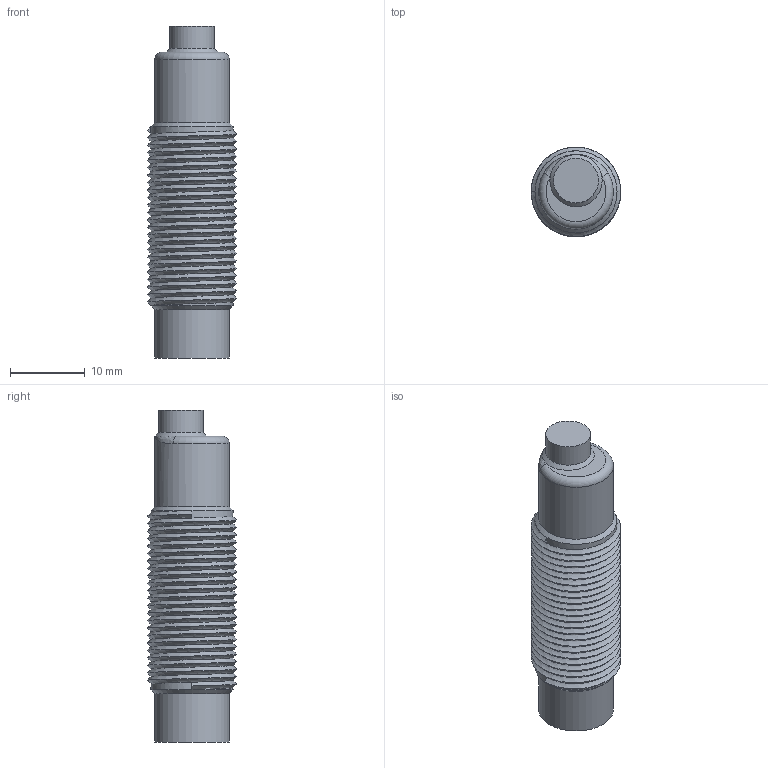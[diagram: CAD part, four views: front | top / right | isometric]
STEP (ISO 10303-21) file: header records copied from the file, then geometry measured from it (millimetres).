
FILE_DESCRIPTION(/* description */ ('Alibre Inc.'),/* implementation_level */ '2;1');
FILE_NAME(/* name */ 'export0',/* time_stamp */ '2013-08-15T11:09:37-06:00',/* author */ (''),/* organization */ (''),/* preprocessor_version */ 'ST-DEVELOPER v14',/* originating_system */ 'Alibre',/* authorisation */ '');
FILE_SCHEMA (('ALIBRE_SCHEMA','CONFIG_CONTROL_DESIGN'));
Length unit declared in the file: centimetre
Products named in the file (1): ID_1
Bounding box: 11.99 x 11.99 x 44.5 mm (x, y, z)
Volume: 3922 mm3; surface area: 1963.1 mm2
Topology: 1 solids, 1 shells, 40 faces, 109 edges, 71 vertices
Faces by surface type: cylinder 28, plane 5, bspline 3, cone 3, torus 1
Full cylindrical faces by diameter (mm): 6 x1, 10 x2, 11 x23
Entity records: 4501 total; most frequent: CARTESIAN_POINT 3342, DIRECTION 93, ORIENTED_EDGE 62, PERSISTANTTOPOLOGYATTRIBUTE 54, REFERENCEDEPENDENTUV 42, CONSTRAINTPAIRUV 42, AXIS2_PLACEMENT_3D 41, ENTITYHEADERPROPERTIES 37
